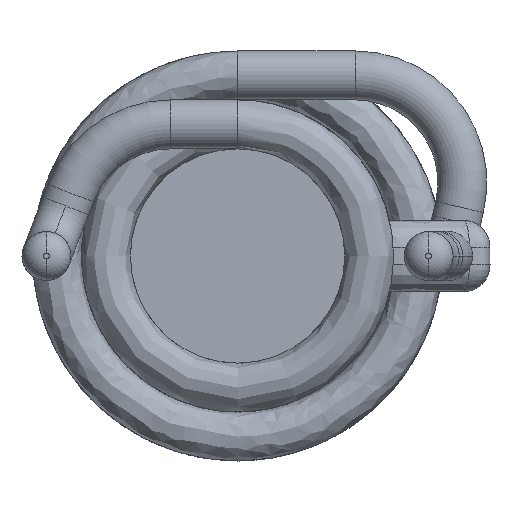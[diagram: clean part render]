
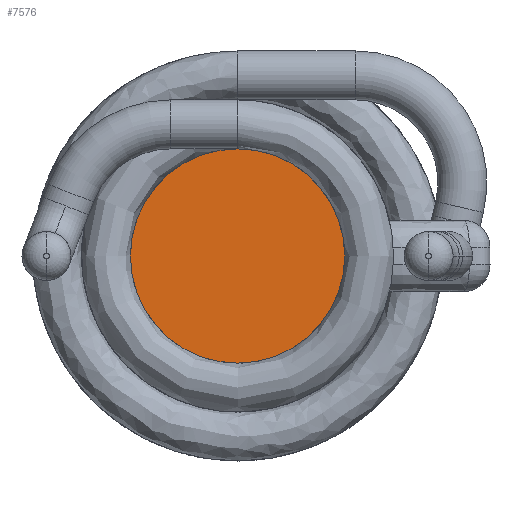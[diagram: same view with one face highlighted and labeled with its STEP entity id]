
A CAD part, front view. The second image highlights one B-rep face of the part: STEP entity #7576.
In plain terms, the highlighted planar face has unit normal (0, -1, 0).
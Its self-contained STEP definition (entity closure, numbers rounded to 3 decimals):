
#191 = ORIENTED_EDGE ( 'NONE', *, *, #2188, .F. ) ;
#317 = EDGE_CURVE ( 'NONE', #3345, #1672, #345, .T. ) ;
#345 = CIRCLE ( 'NONE', #4686, 3. ) ;
#1672 = VERTEX_POINT ( 'NONE', #9248 ) ;
#2158 = CARTESIAN_POINT ( 'NONE',  ( 0., 0., 0. ) ) ;
#2188 = EDGE_CURVE ( 'NONE', #1672, #3345, #2348, .T. ) ;
#2348 = CIRCLE ( 'NONE', #7002, 3. ) ;
#2502 = DIRECTION ( 'NONE',  ( 0., 1., 0. ) ) ;
#2822 = DIRECTION ( 'NONE',  ( 0., 1., 0. ) ) ;
#3345 = VERTEX_POINT ( 'NONE', #8454 ) ;
#3716 = PLANE ( 'NONE',  #7838 ) ;
#3885 = FACE_OUTER_BOUND ( 'NONE', #8181, .T. ) ;
#3941 = ORIENTED_EDGE ( 'NONE', *, *, #317, .F. ) ;
#4686 = AXIS2_PLACEMENT_3D ( 'NONE', #7323, #2822, #8673 ) ;
#4850 = DIRECTION ( 'NONE',  ( 0., 0., 1. ) ) ;
#7002 = AXIS2_PLACEMENT_3D ( 'NONE', #2158, #2502, #4850 ) ;
#7323 = CARTESIAN_POINT ( 'NONE',  ( 0., 0., 0. ) ) ;
#7576 = ADVANCED_FACE ( 'NONE', ( #3885 ), #3716, .F. ) ;
#7838 = AXIS2_PLACEMENT_3D ( 'NONE', #8542, #9542, #9712 ) ;
#8181 = EDGE_LOOP ( 'NONE', ( #3941, #191 ) ) ;
#8454 = CARTESIAN_POINT ( 'NONE',  ( 0., 0., -3. ) ) ;
#8542 = CARTESIAN_POINT ( 'NONE',  ( 0., 0., 0. ) ) ;
#8673 = DIRECTION ( 'NONE',  ( 0., 0., 1. ) ) ;
#9248 = CARTESIAN_POINT ( 'NONE',  ( 0., 0., 3. ) ) ;
#9542 = DIRECTION ( 'NONE',  ( 0., 1., 0. ) ) ;
#9712 = DIRECTION ( 'NONE',  ( 0., 0., 1. ) ) ;
